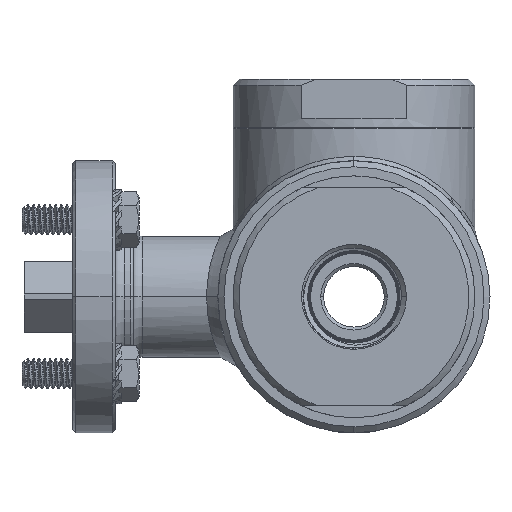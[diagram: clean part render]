
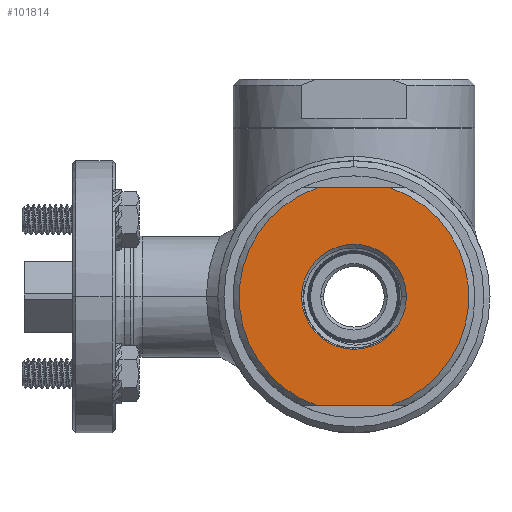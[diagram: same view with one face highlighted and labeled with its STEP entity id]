
A CAD part, left-side view. The second image highlights one B-rep face of the part: STEP entity #101814.
In plain terms, the highlighted planar face has unit normal (-1, 0, 0).
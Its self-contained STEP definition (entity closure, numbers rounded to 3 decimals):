
#41327=DIRECTION('',(0.,1.,0.));
#41328=VECTOR('',#41327,12.166);
#41329=CARTESIAN_POINT('',(-36.,-6.083,
18.));
#41330=LINE('',#41329,#41328);
#41334=DIRECTION('',(0.,1.,0.));
#41335=VECTOR('',#41334,12.166);
#41336=CARTESIAN_POINT('',(-36.,-6.083,
-18.));
#41337=LINE('',#41336,#41335);
#41341=CARTESIAN_POINT('',(-36.,0.,0.));
#41342=DIRECTION('',(1.,0.,0.));
#41343=DIRECTION('',(0.,1.,0.));
#41344=AXIS2_PLACEMENT_3D('',#41341,#41342,#41343);
#41349=CARTESIAN_POINT('',(-36.,0.,0.));
#41350=DIRECTION('',(1.,0.,0.));
#41351=DIRECTION('',(0.,-1.,0.));
#41352=AXIS2_PLACEMENT_3D('',#41349,#41350,#41351);
#41357=CARTESIAN_POINT('',(-36.,0.,0.));
#41358=DIRECTION('',(-1.,0.,0.));
#41359=DIRECTION('',(0.,0.32,0.947));
#41360=AXIS2_PLACEMENT_3D('',#41357,#41358,#41359);
#41365=CARTESIAN_POINT('',(-36.,6.083,
-18.));
#41380=CARTESIAN_POINT('',(-36.,-6.083,
-18.));
#41399=CARTESIAN_POINT('',(-36.,0.,0.));
#41400=DIRECTION('',(-1.,0.,0.));
#41401=DIRECTION('',(0.,-0.32,-0.947));
#41402=AXIS2_PLACEMENT_3D('',#41399,#41400,#41401);
#41527=CARTESIAN_POINT('',(-36.,6.083,
18.));
#41553=CARTESIAN_POINT('',(-36.,-6.083,
18.));
#67921=VERTEX_POINT('',#41527);
#67924=VERTEX_POINT('',#41365);
#67927=VERTEX_POINT('',#41380);
#67930=VERTEX_POINT('',#41553);
#67944=CARTESIAN_POINT('',(-36.,8.675,0.));
#67945=CARTESIAN_POINT('',(-36.,-8.675,0.));
#67946=VERTEX_POINT('',#67944);
#67947=VERTEX_POINT('',#67945);
#101795=CARTESIAN_POINT('',(-36.,0.,0.));
#101796=DIRECTION('',(-1.,0.,0.));
#101797=DIRECTION('',(0.,1.,0.));
#101798=AXIS2_PLACEMENT_3D('',#101795,#101796,#101797);
#101799=PLANE('',#101798);
#101801=ORIENTED_EDGE('',*,*,#101800,.F.);
#101803=ORIENTED_EDGE('',*,*,#101802,.F.);
#101805=ORIENTED_EDGE('',*,*,#101804,.F.);
#101807=ORIENTED_EDGE('',*,*,#101806,.T.);
#101808=EDGE_LOOP('',(#101801,#101803,#101805,#101807));
#101809=FACE_OUTER_BOUND('',#101808,.F.);
#101810=ORIENTED_EDGE('',*,*,#101789,.F.);
#101811=ORIENTED_EDGE('',*,*,#100239,.F.);
#101812=EDGE_LOOP('',(#101810,#101811));
#101813=FACE_BOUND('',#101812,.F.);
#101814=ADVANCED_FACE('',(#101809,#101813),#101799,.T.);
#41345=CIRCLE('',#41344,8.675);
#41353=CIRCLE('',#41352,8.675);
#41361=CIRCLE('',#41360,19.);
#41403=CIRCLE('',#41402,19.);
#100239=EDGE_CURVE('',#67947,#67946,#41353,.T.);
#101789=EDGE_CURVE('',#67946,#67947,#41345,.T.);
#101800=EDGE_CURVE('',#67921,#67924,#41361,.T.);
#101802=EDGE_CURVE('',#67930,#67921,#41330,.T.);
#101804=EDGE_CURVE('',#67927,#67930,#41403,.T.);
#101806=EDGE_CURVE('',#67927,#67924,#41337,.T.);
